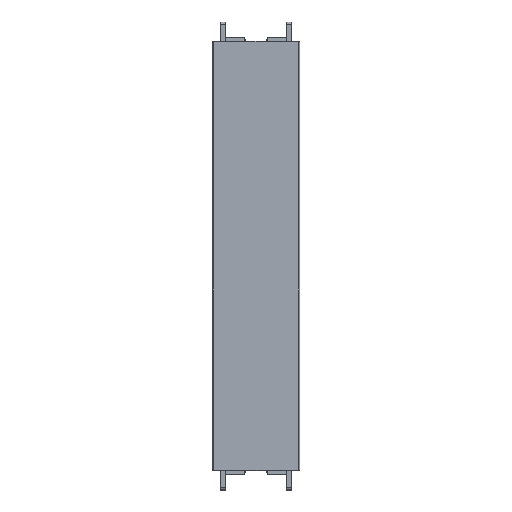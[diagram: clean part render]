
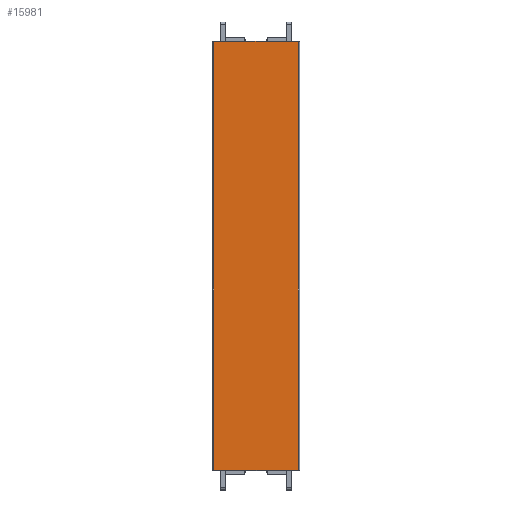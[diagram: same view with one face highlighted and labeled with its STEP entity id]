
A CAD part, top view. The second image highlights one B-rep face of the part: STEP entity #15981.
In plain terms, the highlighted planar face has unit normal (0, 0, 1) as drawn and (0, 0, -1) by its records, which use the part's own axes.
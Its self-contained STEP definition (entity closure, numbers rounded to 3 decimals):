
#1350 = DIRECTION ( 'NONE',  ( 0., -1., 0. ) ) ;
#1504 = EDGE_CURVE ( 'NONE', #25568, #3453, #11911, .T. ) ;
#1845 = VECTOR ( 'NONE', #55528, 1000. ) ;
#3453 = VERTEX_POINT ( 'NONE', #58329 ) ;
#4640 = EDGE_LOOP ( 'NONE', ( #53527, #49902, #15059, #21688 ) ) ;
#5655 = DIRECTION ( 'NONE',  ( 0., 0., 1. ) ) ;
#6179 = DIRECTION ( 'NONE',  ( -1., 0., 0. ) ) ;
#9690 = VERTEX_POINT ( 'NONE', #25404 ) ;
#10580 = EDGE_CURVE ( 'NONE', #39696, #9690, #32439, .T. ) ;
#11068 = LINE ( 'NONE', #33288, #1845 ) ;
#11787 = CARTESIAN_POINT ( 'NONE',  ( 0., 0., -2.5 ) ) ;
#11911 = LINE ( 'NONE', #29392, #49462 ) ;
#15059 = ORIENTED_EDGE ( 'NONE', *, *, #61188, .T. ) ;
#15981 = ADVANCED_FACE ( 'NONE', ( #62050 ), #56241, .F. ) ;
#21688 = ORIENTED_EDGE ( 'NONE', *, *, #10580, .T. ) ;
#23259 = AXIS2_PLACEMENT_3D ( 'NONE', #11787, #5655, #66088 ) ;
#25404 = CARTESIAN_POINT ( 'NONE',  ( -19.5, -98.4, -2.5 ) ) ;
#25568 = VERTEX_POINT ( 'NONE', #58107 ) ;
#25726 = EDGE_CURVE ( 'NONE', #9690, #25568, #11068, .T. ) ;
#27654 = CARTESIAN_POINT ( 'NONE',  ( -19.5, -98.4, -2.5 ) ) ;
#29392 = CARTESIAN_POINT ( 'NONE',  ( 19.5, 98.4, -2.5 ) ) ;
#32439 = LINE ( 'NONE', #27654, #37677 ) ;
#33288 = CARTESIAN_POINT ( 'NONE',  ( -19.5, 98.5, -2.5 ) ) ;
#34092 = CARTESIAN_POINT ( 'NONE',  ( 19.5, -98.5, -2.5 ) ) ;
#34471 = LINE ( 'NONE', #34092, #67195 ) ;
#37677 = VECTOR ( 'NONE', #6179, 1000. ) ;
#39696 = VERTEX_POINT ( 'NONE', #59271 ) ;
#49462 = VECTOR ( 'NONE', #67274, 1000. ) ;
#49902 = ORIENTED_EDGE ( 'NONE', *, *, #1504, .T. ) ;
#53527 = ORIENTED_EDGE ( 'NONE', *, *, #25726, .T. ) ;
#55528 = DIRECTION ( 'NONE',  ( 0., 1., 0. ) ) ;
#56241 = PLANE ( 'NONE',  #23259 ) ;
#58107 = CARTESIAN_POINT ( 'NONE',  ( -19.5, 98.4, -2.5 ) ) ;
#58329 = CARTESIAN_POINT ( 'NONE',  ( 19.5, 98.4, -2.5 ) ) ;
#59271 = CARTESIAN_POINT ( 'NONE',  ( 19.5, -98.4, -2.5 ) ) ;
#61188 = EDGE_CURVE ( 'NONE', #3453, #39696, #34471, .T. ) ;
#62050 = FACE_OUTER_BOUND ( 'NONE', #4640, .T. ) ;
#66088 = DIRECTION ( 'NONE',  ( 1., 0., 0. ) ) ;
#67195 = VECTOR ( 'NONE', #1350, 1000. ) ;
#67274 = DIRECTION ( 'NONE',  ( 1., 0., 0. ) ) ;
